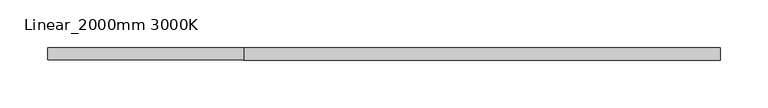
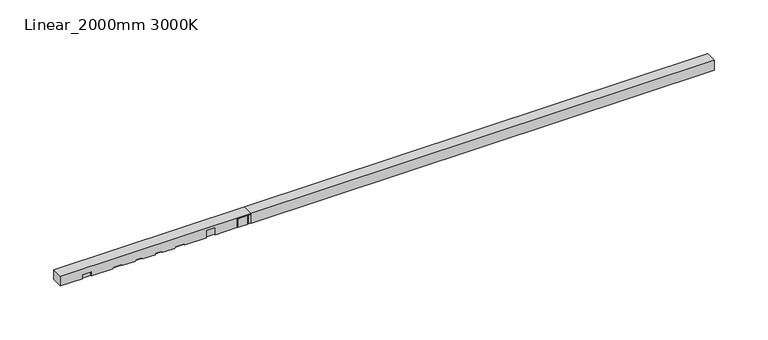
"""IFC4 building model written with IfcOpenShell, lengths in millimetres: light fixture geometry, ARTEMIDE-TurnAround-StripLEDLinear : Linear_2000mm 3000K."""

from ifc_helpers import new_model, si_unit, frame, origin, place, context, project, spatial, polyline, outline, extrude, faceted_brep, source, transform, mapped, element, save


def linear_2000mm_3000k_c9b1b868(model_context):
    return source(origin(), model_context, "Body", "SolidModel", [
        extrude(outline(polyline([(0.0, 6.3079367), (0.0, -6.3079367), (-3.0, -6.3079367), (-3.0, 6.3079367), (0.0, 6.3079367)])), frame((0.0, 0.0, -10.9), z_axis=(0.0, 0.0, 1.0), x_axis=(1.0, 0.0, 0.0)), (0.0, 0.0, 1.0), 9.9),
        extrude(outline(polyline([(-4.0, 6.3079367), (-4.0, -6.3079367), (-14.0, -6.3079367), (-14.0, 6.3079367), (-4.0, 6.3079367)])), frame((0.0, 0.0, -10.9), z_axis=(0.0, 0.0, 1.0), x_axis=(1.0, 0.0, 0.0)), (0.0, 0.0, 1.0), 9.9),
        extrude(outline(polyline([(-15.0, 5.3), (-15.0, -5.3), (-204.4831877, -5.3), (-204.4831877, 5.3), (-15.0, 5.3)])), frame((0.0, 0.0, -10.9), z_axis=(0.0, 0.0, 1.0), x_axis=(1.0, 0.0, 0.0)), (0.0, 0.0, 1.0), 9.9),
        faceted_brep([(0.0, -6.3079367, -1.0), (-15.0, -6.3079367, -1.0), (-15.0, -5.3, -1.0), (-204.4831877, -5.3, -1.0), (-204.4831877, 5.3, -1.0), (-15.0, 5.3, -1.0), (-15.0, 6.3079367, -1.0), (0.0, 6.3079367, -1.0), (0.0, -6.3079367, 0.0), (0.0, 6.3079367, 0.0), (-205.4831877, 6.3079367, 0.0), (-205.4831877, -6.3079367, 0.0), (-15.0, 6.3079367, -10.9), (-38.492395, 6.3079367, -10.9), (-38.492395, 6.3079367, -2.4235673), (-48.066496, 6.3079367, -2.4235673), (-48.066496, 6.3079367, -10.9), (-71.529749, 6.3079367, -10.9), (-71.7677904, 6.3079367, -9.5497944), (-81.7153973, 6.3079367, -9.5497944), (-81.9534387, 6.3079367, -10.9), (-95.829749, 6.3079367, -10.9), (-96.0677904, 6.3079367, -9.5497944), (-103.0038049, 6.3079367, -9.5497944), (-103.2418463, 6.3079367, -10.9), (-117.2413413, 6.3079367, -10.9), (-117.4793828, 6.3079367, -9.5497944), (-124.4153973, 6.3079367, -9.5497944), (-124.6534387, 6.3079367, -10.9), (-138.529749, 6.3079367, -10.9), (-138.7677904, 6.3079367, -9.5497944), (-148.7153973, 6.3079367, -9.5497944), (-148.9534387, 6.3079367, -10.9), (-172.4166917, 6.3079367, -10.9), (-172.4166917, 6.3079367, -6.5241217), (-181.9907927, 6.3079367, -6.5241217), (-181.9907927, 6.3079367, -10.9), (-205.4831877, 6.3079367, -10.9), (-205.4831877, -6.3079367, -10.9), (-181.9907927, -6.3079367, -10.9), (-181.9907927, -6.3079367, -6.5241217), (-172.4166917, -6.3079367, -6.5241217), (-172.4166917, -6.3079367, -10.9), (-148.9534387, -6.3079367, -10.9), (-148.7153973, -6.3079367, -9.5497944), (-138.7677904, -6.3079367, -9.5497944), (-138.529749, -6.3079367, -10.9), (-124.6534387, -6.3079367, -10.9), (-124.4153973, -6.3079367, -9.5497944), (-117.4793828, -6.3079367, -9.5497944), (-117.2413413, -6.3079367, -10.9), (-103.2418463, -6.3079367, -10.9), (-103.0038049, -6.3079367, -9.5497944), (-96.0677904, -6.3079367, -9.5497944), (-95.829749, -6.3079367, -10.9), (-81.9534387, -6.3079367, -10.9), (-81.7153973, -6.3079367, -9.5497944), (-71.7677904, -6.3079367, -9.5497944), (-71.529749, -6.3079367, -10.9), (-48.066496, -6.3079367, -10.9), (-48.066496, -6.3079367, -2.4235673), (-38.492395, -6.3079367, -2.4235673), (-38.492395, -6.3079367, -10.9), (-15.0, -6.3079367, -10.9), (-172.4166917, -5.3, -10.9), (-172.4166917, -5.3, -6.5241217), (-181.9907927, -5.3, -6.5241217), (-181.9907927, -5.3, -10.9), (-204.4831877, -5.3, -10.9), (-15.0, -5.3, -10.9), (-38.492395, -5.3, -10.9), (-38.492395, -5.3, -2.4235673), (-48.066496, -5.3, -2.4235673), (-48.066496, -5.3, -10.9), (-71.529749, -5.3, -10.9), (-71.7677904, -5.3, -9.5497944), (-81.7153973, -5.3, -9.5497944), (-81.9534387, -5.3, -10.9), (-95.829749, -5.3, -10.9), (-96.0677904, -5.3, -9.5497944), (-103.0038049, -5.3, -9.5497944), (-103.2418463, -5.3, -10.9), (-117.2413413, -5.3, -10.9), (-117.4793828, -5.3, -9.5497944), (-124.4153973, -5.3, -9.5497944), (-124.6534387, -5.3, -10.9), (-138.529749, -5.3, -10.9), (-138.7677904, -5.3, -9.5497944), (-148.7153973, -5.3, -9.5497944), (-148.9534387, -5.3, -10.9), (-181.9907927, 5.3, -10.9), (-204.4831877, 5.3, -10.9), (-172.4166917, 5.3, -10.9), (-148.9534387, 5.3, -10.9), (-148.7153973, 5.3, -9.5497944), (-138.7677904, 5.3, -9.5497944), (-138.529749, 5.3, -10.9), (-124.6534387, 5.3, -10.9), (-124.4153973, 5.3, -9.5497944), (-117.4793828, 5.3, -9.5497944), (-117.2413413, 5.3, -10.9), (-103.2418463, 5.3, -10.9), (-103.0038049, 5.3, -9.5497944), (-96.0677904, 5.3, -9.5497944), (-95.829749, 5.3, -10.9), (-81.9534387, 5.3, -10.9), (-81.7153973, 5.3, -9.5497944), (-71.7677904, 5.3, -9.5497944), (-71.529749, 5.3, -10.9), (-48.066496, 5.3, -10.9), (-48.066496, 5.3, -2.4235673), (-38.492395, 5.3, -2.4235673), (-38.492395, 5.3, -10.9), (-15.0, 5.3, -10.9), (-181.9907927, 5.3, -6.5241217), (-172.4166917, 5.3, -6.5241217)], [[[0, 1, 2, 3, 4, 5, 6, 7]], [[8, 9, 10, 11]], [[7, 9, 8, 0]], [[9, 7, 6, 12, 13, 14, 15, 16, 17, 18, 19, 20, 21, 22, 23, 24, 25, 26, 27, 28, 29, 30, 31, 32, 33, 34, 35, 36, 37, 10]], [[38, 11, 10, 37]], [[11, 38, 39, 40, 41, 42, 43, 44, 45, 46, 47, 48, 49, 50, 51, 52, 53, 54, 55, 56, 57, 58, 59, 60, 61, 62, 63, 1, 0, 8]], [[64, 65, 66, 67, 68, 3, 2, 69, 70, 71, 72, 73, 74, 75, 76, 77, 78, 79, 80, 81, 82, 83, 84, 85, 86, 87, 88, 89]], [[41, 65, 64, 42]], [[40, 66, 65, 41]], [[39, 67, 66, 40]], [[39, 38, 37, 36, 90, 91, 68, 67]], [[62, 70, 69, 63]], [[61, 71, 70, 62]], [[60, 72, 71, 61]], [[59, 73, 72, 60]], [[58, 74, 73, 59]], [[57, 75, 74, 58]], [[56, 76, 75, 57]], [[55, 77, 76, 56]], [[54, 78, 77, 55]], [[53, 79, 78, 54]], [[52, 80, 79, 53]], [[51, 81, 80, 52]], [[50, 82, 81, 51]], [[49, 83, 82, 50]], [[48, 84, 83, 49]], [[47, 85, 84, 48]], [[46, 86, 85, 47]], [[45, 87, 86, 46]], [[44, 88, 87, 45]], [[43, 89, 88, 44]], [[42, 64, 89, 43]], [[68, 91, 4, 3]], [[92, 93, 94, 95, 96, 97, 98, 99, 100, 101, 102, 103, 104, 105, 106, 107, 108, 109, 110, 111, 112, 113, 5, 4, 91, 90, 114, 115]], [[33, 92, 115, 34]], [[34, 115, 114, 35]], [[35, 114, 90, 36]], [[13, 112, 111, 14]], [[14, 111, 110, 15]], [[15, 110, 109, 16]], [[16, 109, 108, 17]], [[17, 108, 107, 18]], [[18, 107, 106, 19]], [[19, 106, 105, 20]], [[20, 105, 104, 21]], [[21, 104, 103, 22]], [[22, 103, 102, 23]], [[23, 102, 101, 24]], [[24, 101, 100, 25]], [[25, 100, 99, 26]], [[26, 99, 98, 27]], [[27, 98, 97, 28]], [[28, 97, 96, 29]], [[29, 96, 95, 30]], [[30, 95, 94, 31]], [[31, 94, 93, 32]], [[32, 93, 92, 33]], [[63, 69, 2, 1]], [[6, 5, 113, 12]], [[12, 113, 112, 13]]]),
        extrude(outline(polyline([(0.0, -6.5), (0.0, 6.5), (500.0, 6.5), (500.0, -6.5), (0.0, -6.5)])), frame((0.0, 0.0, -11.3), z_axis=(0.0, 0.0, 1.0), x_axis=(1.0, 0.0, 0.0)), (0.0, 0.0, 1.0), 11.3),
    ])


if __name__ == "__main__":
    model = new_model("IFC4")
    model_context = context("Model", 3, world=origin())
    ifc_project = project(units=[si_unit("LENGTHUNIT", "METRE", prefix="MILLI")], contexts=[model_context])
    site = spatial("IfcSite", under=ifc_project)
    building = spatial("IfcBuilding", under=site)
    placement = place(None, origin())
    linear_2000mm_3000k_shape = linear_2000mm_3000k_c9b1b868(model_context)
    element("IfcLightFixture", 1, ObjectType="ARTEMIDE-TurnAround-StripLEDLinear : Linear_2000mm 3000K", at=placement, inside=building, context=model_context, shape_type="MappedRepresentation", body=[
        mapped(linear_2000mm_3000k_shape, transform((0.0, 0.0, 0.0), x_axis=(1.0, 0.0, 0.0), y_axis=(0.0, 1.0, 0.0), z_axis=(0.0, 0.0, 1.0))),
    ])
    save(model, "model.ifc")
